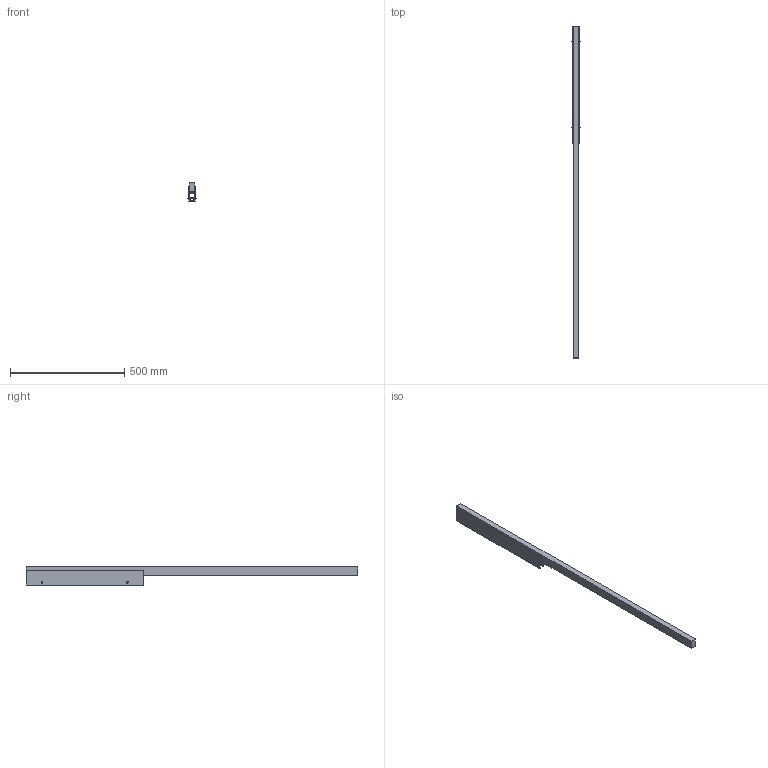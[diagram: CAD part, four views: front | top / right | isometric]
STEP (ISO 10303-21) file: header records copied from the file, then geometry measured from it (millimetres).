
FILE_DESCRIPTION(/* description */ ('Unknown'),/* implementation_level */ '2;1');
FILE_NAME(/* name */ '98836',/* time_stamp */ '2023-02-07T07:59:47-05:00',/* author */ ('Unknown'),/* organization */ ('Unknown'),/* preprocessor_version */ 'ST-DEVELOPER v18.1',/* originating_system */ 'Solid Edge',/* authorisation */ 'Unknown');
FILE_SCHEMA (('AUTOMOTIVE_DESIGN {1 0 10303 214 3 1 1}'));
Length unit declared in the file: millimetre
Products named in the file (5): CONTROCASSA 3D-ACCESSORIO; L-PR0159; MSL03327; LED-RIV001; LED-POL022
Assembly tree (8 placements, depth 2):
  CONTROCASSA 3D-ACCESSORIO
    L-PR0159
    MSL03327  x2
    LED-RIV001  x4
    LED-POL022
Bounding box: 35.51 x 1452 x 80 mm (x, y, z)
Volume: 1598547.3 mm3; surface area: 393196.2 mm2
Topology: 8 solids, 8 shells, 264 faces, 748 edges, 500 vertices
Faces by surface type: cylinder 146, plane 102, torus 12, sphere 4
Full cylindrical faces by diameter (mm): 3.8 x4, 4.1 x8, 5 x2, 7.8 x4
Entity records: 7103 total; most frequent: CARTESIAN_POINT 1521, ORIENTED_EDGE 1158, DIRECTION 1128, EDGE_CURVE 579, AXIS2_PLACEMENT_3D 413, VERTEX_POINT 394, LINE 302, VECTOR 302
